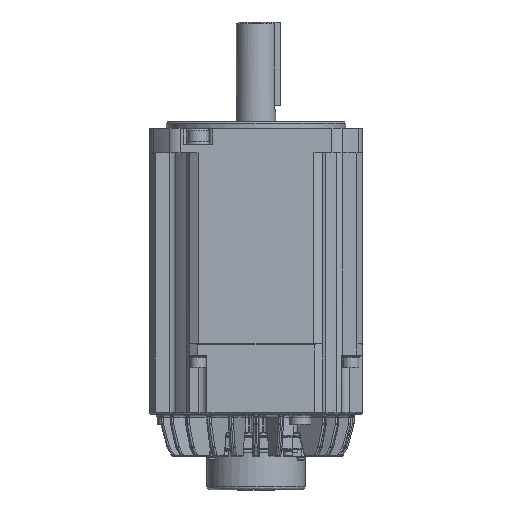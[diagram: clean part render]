
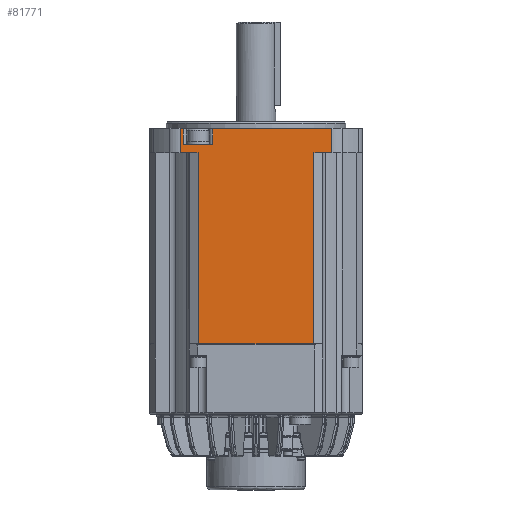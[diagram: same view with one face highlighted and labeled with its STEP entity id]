
A CAD part, front view. The second image highlights one B-rep face of the part: STEP entity #81771.
In plain terms, the highlighted planar face has unit normal (0, -1, 0).
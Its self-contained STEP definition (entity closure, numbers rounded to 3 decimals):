
#1139 = PLANE ( 'NONE',  #138038 ) ;
#1799 = CARTESIAN_POINT ( 'NONE',  ( 65.76, -42.252, 312.206 ) ) ;
#3927 = LINE ( 'NONE', #115530, #63220 ) ;
#4748 = DIRECTION ( 'NONE',  ( 1., 0., 0. ) ) ;
#4759 = CARTESIAN_POINT ( 'NONE',  ( 145.76, -42.252, 190.206 ) ) ;
#6764 = ORIENTED_EDGE ( 'NONE', *, *, #22040, .T. ) ;
#7623 = ORIENTED_EDGE ( 'NONE', *, *, #63584, .T. ) ;
#8302 = VECTOR ( 'NONE', #46085, 1000. ) ;
#12202 = VERTEX_POINT ( 'NONE', #15793 ) ;
#12446 = VECTOR ( 'NONE', #71405, 1000. ) ;
#12856 = EDGE_CURVE ( 'NONE', #128155, #53834, #106163, .T. ) ;
#13343 = CARTESIAN_POINT ( 'NONE',  ( 74.759, -42.252, 190.206 ) ) ;
#13877 = DIRECTION ( 'NONE',  ( -1., 0., 0. ) ) ;
#14353 = CARTESIAN_POINT ( 'NONE',  ( 156.725, -42.252, 321.906 ) ) ;
#14758 = EDGE_CURVE ( 'NONE', #124033, #26205, #46610, .T. ) ;
#15168 = VECTOR ( 'NONE', #110087, 1000. ) ;
#15793 = CARTESIAN_POINT ( 'NONE',  ( 72.971, -42.252, 312.206 ) ) ;
#16607 = DIRECTION ( 'NONE',  ( 0., 0., 1. ) ) ;
#16669 = CARTESIAN_POINT ( 'NONE',  ( 63.794, -42.252, 190.206 ) ) ;
#17547 = CARTESIAN_POINT ( 'NONE',  ( 63.794, -42.252, 321.906 ) ) ;
#17608 = LINE ( 'NONE', #16669, #49095 ) ;
#17923 = CARTESIAN_POINT ( 'NONE',  ( 65.76, -42.252, 321.906 ) ) ;
#18194 = CARTESIAN_POINT ( 'NONE',  ( 83.76, -42.252, 190.206 ) ) ;
#19574 = EDGE_CURVE ( 'NONE', #12202, #142989, #116582, .T. ) ;
#20753 = CARTESIAN_POINT ( 'NONE',  ( 65.76, -42.252, 190.206 ) ) ;
#22040 = EDGE_CURVE ( 'NONE', #47642, #140535, #138545, .T. ) ;
#22108 = VECTOR ( 'NONE', #13877, 1000. ) ;
#22954 = DIRECTION ( 'NONE',  ( 1., 0., 0. ) ) ;
#24949 = CARTESIAN_POINT ( 'NONE',  ( 145.76, -42.252, 190.206 ) ) ;
#26205 = VERTEX_POINT ( 'NONE', #105413 ) ;
#30315 = VECTOR ( 'NONE', #16607, 1000. ) ;
#30760 = VECTOR ( 'NONE', #88197, 1000. ) ;
#33699 = VERTEX_POINT ( 'NONE', #61077 ) ;
#33741 = CARTESIAN_POINT ( 'NONE',  ( 74.759, -42.252, 307.206 ) ) ;
#34436 = LINE ( 'NONE', #52443, #30760 ) ;
#35014 = DIRECTION ( 'NONE',  ( 0., 0., 1. ) ) ;
#36878 = DIRECTION ( 'NONE',  ( 0., 0., -1. ) ) ;
#37996 = CARTESIAN_POINT ( 'NONE',  ( 145.76, -42.252, 190.206 ) ) ;
#42538 = LINE ( 'NONE', #93875, #101797 ) ;
#46085 = DIRECTION ( 'NONE',  ( 0., 0., -1. ) ) ;
#46106 = EDGE_CURVE ( 'NONE', #63434, #128155, #42538, .T. ) ;
#46610 = LINE ( 'NONE', #74399, #15168 ) ;
#46912 = VECTOR ( 'NONE', #4748, 1000. ) ;
#47642 = VERTEX_POINT ( 'NONE', #67550 ) ;
#49095 = VECTOR ( 'NONE', #73682, 1000. ) ;
#49510 = EDGE_CURVE ( 'NONE', #26205, #98350, #140198, .T. ) ;
#51301 = CARTESIAN_POINT ( 'NONE',  ( 145.76, -42.252, 190.206 ) ) ;
#52443 = CARTESIAN_POINT ( 'NONE',  ( 145.76, -42.252, 321.906 ) ) ;
#52630 = ORIENTED_EDGE ( 'NONE', *, *, #153621, .T. ) ;
#53834 = VERTEX_POINT ( 'NONE', #37996 ) ;
#58472 = CARTESIAN_POINT ( 'NONE',  ( 145.76, -42.252, 307.206 ) ) ;
#61077 = CARTESIAN_POINT ( 'NONE',  ( 145.76, -42.252, 307.206 ) ) ;
#62669 = CARTESIAN_POINT ( 'NONE',  ( 110.26, -42.252, 190.206 ) ) ;
#63220 = VECTOR ( 'NONE', #116048, 1000. ) ;
#63434 = VERTEX_POINT ( 'NONE', #13343 ) ;
#63584 = EDGE_CURVE ( 'NONE', #119758, #12202, #146701, .T. ) ;
#64283 = EDGE_CURVE ( 'NONE', #33699, #91603, #3927, .T. ) ;
#65891 = CARTESIAN_POINT ( 'NONE',  ( 83.76, -42.252, 312.206 ) ) ;
#67550 = CARTESIAN_POINT ( 'NONE',  ( 63.794, -42.252, 307.206 ) ) ;
#67652 = ORIENTED_EDGE ( 'NONE', *, *, #12856, .T. ) ;
#68436 = ORIENTED_EDGE ( 'NONE', *, *, #116338, .T. ) ;
#70263 = CARTESIAN_POINT ( 'NONE',  ( 156.725, -42.252, 190.206 ) ) ;
#71405 = DIRECTION ( 'NONE',  ( 1., 0., 0. ) ) ;
#73184 = ORIENTED_EDGE ( 'NONE', *, *, #101646, .T. ) ;
#73682 = DIRECTION ( 'NONE',  ( 0., 0., -1. ) ) ;
#74064 = ORIENTED_EDGE ( 'NONE', *, *, #19574, .T. ) ;
#74399 = CARTESIAN_POINT ( 'NONE',  ( 145.76, -42.252, 321.906 ) ) ;
#77212 = VECTOR ( 'NONE', #101019, 1000. ) ;
#77716 = ORIENTED_EDGE ( 'NONE', *, *, #64283, .T. ) ;
#80852 = DIRECTION ( 'NONE',  ( 0., 0., 1. ) ) ;
#80926 = EDGE_CURVE ( 'NONE', #53834, #33699, #124785, .T. ) ;
#81771 = ADVANCED_FACE ( 'NONE', ( #152460 ), #1139, .T. ) ;
#84870 = CARTESIAN_POINT ( 'NONE',  ( 145.76, -42.252, 312.206 ) ) ;
#87470 = VERTEX_POINT ( 'NONE', #17547 ) ;
#88197 = DIRECTION ( 'NONE',  ( -1., 0., 0. ) ) ;
#90175 = VECTOR ( 'NONE', #35014, 1000. ) ;
#91515 = LINE ( 'NONE', #20753, #98958 ) ;
#91603 = VERTEX_POINT ( 'NONE', #100976 ) ;
#93875 = CARTESIAN_POINT ( 'NONE',  ( 145.76, -42.252, 190.206 ) ) ;
#95513 = EDGE_CURVE ( 'NONE', #142989, #139736, #91515, .T. ) ;
#97314 = CARTESIAN_POINT ( 'NONE',  ( 145.76, -42.252, 312.206 ) ) ;
#98350 = VERTEX_POINT ( 'NONE', #65891 ) ;
#98958 = VECTOR ( 'NONE', #80852, 1000. ) ;
#99292 = ORIENTED_EDGE ( 'NONE', *, *, #46106, .T. ) ;
#100976 = CARTESIAN_POINT ( 'NONE',  ( 156.725, -42.252, 307.206 ) ) ;
#101019 = DIRECTION ( 'NONE',  ( 0., 0., -1. ) ) ;
#101646 = EDGE_CURVE ( 'NONE', #98350, #119758, #151929, .T. ) ;
#101797 = VECTOR ( 'NONE', #22954, 1000. ) ;
#105413 = CARTESIAN_POINT ( 'NONE',  ( 83.76, -42.252, 321.906 ) ) ;
#106094 = ORIENTED_EDGE ( 'NONE', *, *, #151682, .T. ) ;
#106163 = LINE ( 'NONE', #51301, #46912 ) ;
#107783 = DIRECTION ( 'NONE',  ( 0., -1., 0. ) ) ;
#110087 = DIRECTION ( 'NONE',  ( -1., 0., 0. ) ) ;
#115142 = VECTOR ( 'NONE', #133995, 1000. ) ;
#115530 = CARTESIAN_POINT ( 'NONE',  ( 145.76, -42.252, 307.206 ) ) ;
#116048 = DIRECTION ( 'NONE',  ( 1., 0., 0. ) ) ;
#116338 = EDGE_CURVE ( 'NONE', #91603, #124033, #121640, .T. ) ;
#116582 = LINE ( 'NONE', #84870, #22108 ) ;
#117131 = EDGE_CURVE ( 'NONE', #139736, #87470, #34436, .T. ) ;
#117202 = ORIENTED_EDGE ( 'NONE', *, *, #49510, .T. ) ;
#118340 = EDGE_LOOP ( 'NONE', ( #106094, #6764, #52630, #99292, #67652, #153070, #77716, #68436, #150785, #117202, #73184, #7623, #74064, #141401, #134407 ) ) ;
#119758 = VERTEX_POINT ( 'NONE', #125760 ) ;
#120344 = VECTOR ( 'NONE', #120589, 1000. ) ;
#120589 = DIRECTION ( 'NONE',  ( -1., 0., 0. ) ) ;
#121640 = LINE ( 'NONE', #70263, #90175 ) ;
#122044 = CARTESIAN_POINT ( 'NONE',  ( 145.76, -42.252, 312.206 ) ) ;
#124033 = VERTEX_POINT ( 'NONE', #14353 ) ;
#124785 = LINE ( 'NONE', #4759, #30315 ) ;
#125760 = CARTESIAN_POINT ( 'NONE',  ( 76.548, -42.252, 312.206 ) ) ;
#128155 = VERTEX_POINT ( 'NONE', #62669 ) ;
#128912 = CARTESIAN_POINT ( 'NONE',  ( 74.759, -42.252, 190.206 ) ) ;
#133995 = DIRECTION ( 'NONE',  ( -1., 0., 0. ) ) ;
#134324 = LINE ( 'NONE', #128912, #8302 ) ;
#134407 = ORIENTED_EDGE ( 'NONE', *, *, #117131, .T. ) ;
#138038 = AXIS2_PLACEMENT_3D ( 'NONE', #24949, #107783, #36878 ) ;
#138545 = LINE ( 'NONE', #58472, #12446 ) ;
#139736 = VERTEX_POINT ( 'NONE', #17923 ) ;
#140198 = LINE ( 'NONE', #18194, #77212 ) ;
#140535 = VERTEX_POINT ( 'NONE', #33741 ) ;
#141401 = ORIENTED_EDGE ( 'NONE', *, *, #95513, .T. ) ;
#142989 = VERTEX_POINT ( 'NONE', #1799 ) ;
#146701 = LINE ( 'NONE', #122044, #115142 ) ;
#150785 = ORIENTED_EDGE ( 'NONE', *, *, #14758, .T. ) ;
#151682 = EDGE_CURVE ( 'NONE', #87470, #47642, #17608, .T. ) ;
#151929 = LINE ( 'NONE', #97314, #120344 ) ;
#152460 = FACE_OUTER_BOUND ( 'NONE', #118340, .T. ) ;
#153070 = ORIENTED_EDGE ( 'NONE', *, *, #80926, .T. ) ;
#153621 = EDGE_CURVE ( 'NONE', #140535, #63434, #134324, .T. ) ;
